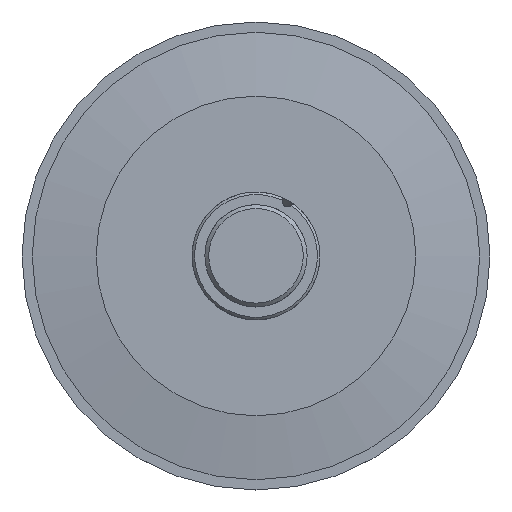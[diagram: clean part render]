
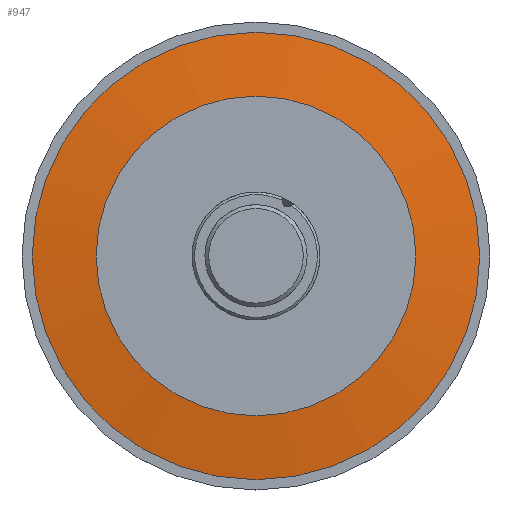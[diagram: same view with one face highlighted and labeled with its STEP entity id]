
A CAD part, top view. The second image highlights one B-rep face of the part: STEP entity #947.
In plain terms, the highlighted conical face has half-angle 82 degrees and reference radius 17.5 mm.
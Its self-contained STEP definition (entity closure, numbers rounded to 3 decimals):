
#857 = PLANE('',#858);
#858 = AXIS2_PLACEMENT_3D('',#859,#860,#861);
#859 = CARTESIAN_POINT('',(0.,0.,1.3));
#860 = DIRECTION('',(0.,0.,1.));
#861 = DIRECTION('',(1.,0.,-0.));
#916 = EDGE_CURVE('',#917,#917,#919,.T.);
#917 = VERTEX_POINT('',#918);
#918 = CARTESIAN_POINT('',(12.5,0.,1.3));
#919 = SURFACE_CURVE('',#920,(#925,#932),.PCURVE_S1.);
#920 = CIRCLE('',#921,12.5);
#921 = AXIS2_PLACEMENT_3D('',#922,#923,#924);
#922 = CARTESIAN_POINT('',(0.,0.,1.3));
#923 = DIRECTION('',(0.,0.,1.));
#924 = DIRECTION('',(1.,0.,-0.));
#925 = PCURVE('',#857,#926);
#926 = DEFINITIONAL_REPRESENTATION('',(#927),#931);
#927 = CIRCLE('',#928,12.5);
#928 = AXIS2_PLACEMENT_2D('',#929,#930);
#929 = CARTESIAN_POINT('',(0.,0.));
#930 = DIRECTION('',(1.,0.));
#931 = ( GEOMETRIC_REPRESENTATION_CONTEXT(2) 
PARAMETRIC_REPRESENTATION_CONTEXT() REPRESENTATION_CONTEXT('2D SPACE',''
  ) );
#932 = PCURVE('',#933,#938);
#933 = CONICAL_SURFACE('',#934,17.5,1.431);
#934 = AXIS2_PLACEMENT_3D('',#935,#936,#937);
#935 = CARTESIAN_POINT('',(0.,0.,0.597));
#936 = DIRECTION('',(-0.,-0.,-1.));
#937 = DIRECTION('',(1.,0.,-0.));
#938 = DEFINITIONAL_REPRESENTATION('',(#939),#943);
#939 = LINE('',#940,#941);
#940 = CARTESIAN_POINT('',(-0.,-0.703));
#941 = VECTOR('',#942,1.);
#942 = DIRECTION('',(-1.,-0.));
#943 = ( GEOMETRIC_REPRESENTATION_CONTEXT(2) 
PARAMETRIC_REPRESENTATION_CONTEXT() REPRESENTATION_CONTEXT('2D SPACE',''
  ) );
#947 = ADVANCED_FACE('',(#948),#933,.T.);
#948 = FACE_BOUND('',#949,.T.);
#949 = EDGE_LOOP('',(#950,#979,#1000,#1001));
#950 = ORIENTED_EDGE('',*,*,#951,.T.);
#951 = EDGE_CURVE('',#952,#952,#954,.T.);
#952 = VERTEX_POINT('',#953);
#953 = CARTESIAN_POINT('',(17.5,0.,0.597));
#954 = SURFACE_CURVE('',#955,(#960,#967),.PCURVE_S1.);
#955 = CIRCLE('',#956,17.5);
#956 = AXIS2_PLACEMENT_3D('',#957,#958,#959);
#957 = CARTESIAN_POINT('',(0.,0.,0.597));
#958 = DIRECTION('',(0.,0.,1.));
#959 = DIRECTION('',(1.,0.,-0.));
#960 = PCURVE('',#933,#961);
#961 = DEFINITIONAL_REPRESENTATION('',(#962),#966);
#962 = LINE('',#963,#964);
#963 = CARTESIAN_POINT('',(-0.,-0.));
#964 = VECTOR('',#965,1.);
#965 = DIRECTION('',(-1.,-0.));
#966 = ( GEOMETRIC_REPRESENTATION_CONTEXT(2) 
PARAMETRIC_REPRESENTATION_CONTEXT() REPRESENTATION_CONTEXT('2D SPACE',''
  ) );
#967 = PCURVE('',#968,#973);
#968 = PLANE('',#969);
#969 = AXIS2_PLACEMENT_3D('',#970,#971,#972);
#970 = CARTESIAN_POINT('',(0.,0.,0.597));
#971 = DIRECTION('',(0.,0.,1.));
#972 = DIRECTION('',(1.,0.,-0.));
#973 = DEFINITIONAL_REPRESENTATION('',(#974),#978);
#974 = CIRCLE('',#975,17.5);
#975 = AXIS2_PLACEMENT_2D('',#976,#977);
#976 = CARTESIAN_POINT('',(0.,0.));
#977 = DIRECTION('',(1.,0.));
#978 = ( GEOMETRIC_REPRESENTATION_CONTEXT(2) 
PARAMETRIC_REPRESENTATION_CONTEXT() REPRESENTATION_CONTEXT('2D SPACE',''
  ) );
#979 = ORIENTED_EDGE('',*,*,#980,.T.);
#980 = EDGE_CURVE('',#952,#917,#981,.T.);
#981 = SEAM_CURVE('',#982,(#986,#993),.PCURVE_S1.);
#982 = LINE('',#983,#984);
#983 = CARTESIAN_POINT('',(17.5,0.,0.597));
#984 = VECTOR('',#985,1.);
#985 = DIRECTION('',(-0.99,0.,0.139));
#986 = PCURVE('',#933,#987);
#987 = DEFINITIONAL_REPRESENTATION('',(#988),#992);
#988 = LINE('',#989,#990);
#989 = CARTESIAN_POINT('',(-0.,-0.));
#990 = VECTOR('',#991,1.);
#991 = DIRECTION('',(-0.,-1.));
#992 = ( GEOMETRIC_REPRESENTATION_CONTEXT(2) 
PARAMETRIC_REPRESENTATION_CONTEXT() REPRESENTATION_CONTEXT('2D SPACE',''
  ) );
#993 = PCURVE('',#933,#994);
#994 = DEFINITIONAL_REPRESENTATION('',(#995),#999);
#995 = LINE('',#996,#997);
#996 = CARTESIAN_POINT('',(-6.283,-0.));
#997 = VECTOR('',#998,1.);
#998 = DIRECTION('',(-0.,-1.));
#999 = ( GEOMETRIC_REPRESENTATION_CONTEXT(2) 
PARAMETRIC_REPRESENTATION_CONTEXT() REPRESENTATION_CONTEXT('2D SPACE',''
  ) );
#1000 = ORIENTED_EDGE('',*,*,#916,.F.);
#1001 = ORIENTED_EDGE('',*,*,#980,.F.);
